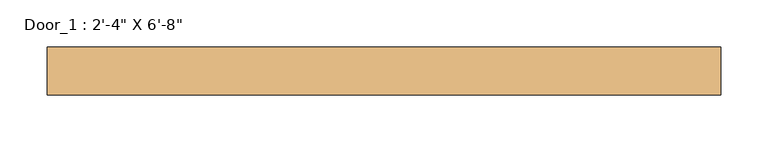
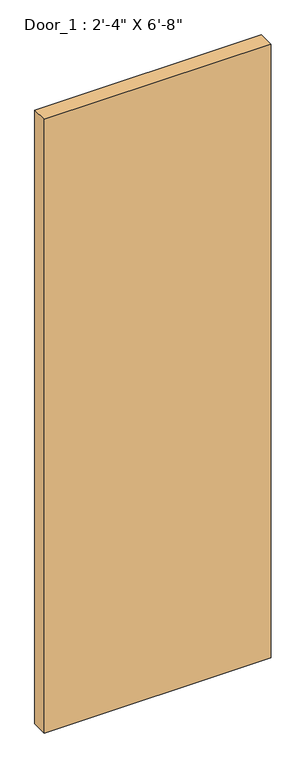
"""IFC4 building model written with IfcOpenShell, lengths in millimetres: door geometry."""

from ifc_helpers import new_model, si_unit, origin, origin_with_axes, place, context, project, spatial, polyline, outline, extrude, source, transform, mapped, element, save


def door_64bc458f(model_context):
    return source(origin(), model_context, "Body", "SweptSolid", [
        extrude(outline(polyline([(355.6, -27.1893842), (355.6, -77.9893842), (-355.6, -77.9893842), (-355.6, -27.1893842), (355.6, -27.1893842)])), origin_with_axes(), (0.0, 0.0, 1.0), 2032.0),
    ])


if __name__ == "__main__":
    model = new_model("IFC4")
    model_context = context("Model", 3, world=origin())
    ifc_project = project(units=[si_unit("LENGTHUNIT", "METRE", prefix="MILLI")], contexts=[model_context])
    site = spatial("IfcSite", under=ifc_project)
    building = spatial("IfcBuilding", under=site)
    placement = place(None, origin())
    door_shape = door_64bc458f(model_context)
    element("IfcDoor", 1, ObjectType="Door_1 : 2'-4\" X 6'-8\"", at=placement, inside=building, context=model_context, shape_type="MappedRepresentation", body=[
        mapped(door_shape, transform((0.0, 0.0, 0.0), x_axis=(1.0, 0.0, 0.0), y_axis=(0.0, 1.0, 0.0), z_axis=(0.0, 0.0, 1.0))),
    ])
    save(model, "model.ifc")
